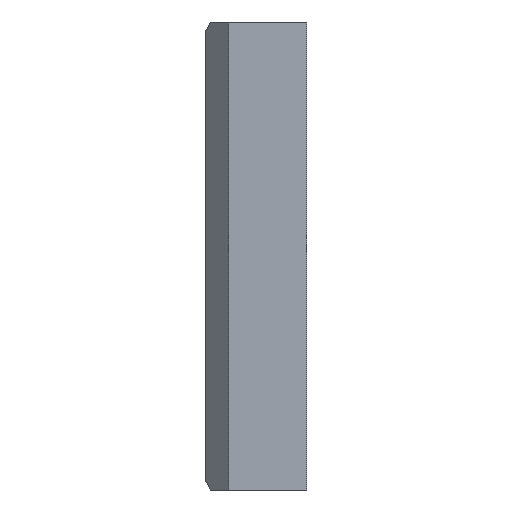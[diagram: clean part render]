
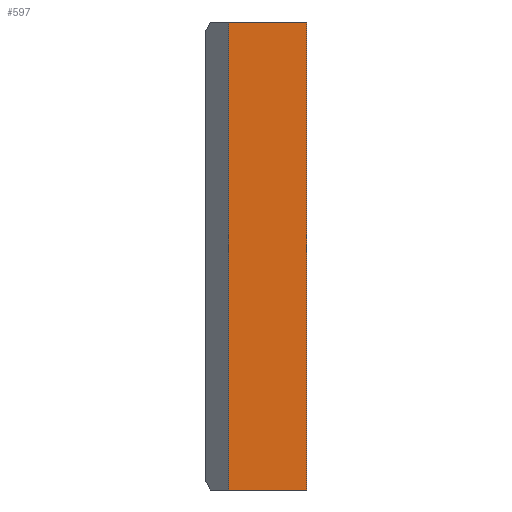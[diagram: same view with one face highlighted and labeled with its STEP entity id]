
A CAD part, left-side view. The second image highlights one B-rep face of the part: STEP entity #597.
In plain terms, the highlighted planar face has unit normal (-1, 0, 0).
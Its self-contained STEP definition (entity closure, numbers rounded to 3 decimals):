
#28 = DIRECTION ( 'NONE',  ( 0., 1., 0. ) ) ;
#305 = ORIENTED_EDGE ( 'NONE', *, *, #1192, .F. ) ;
#308 = ORIENTED_EDGE ( 'NONE', *, *, #1570, .T. ) ;
#385 = PLANE ( 'NONE',  #785 ) ;
#411 = VECTOR ( 'NONE', #1241, 1000. ) ;
#511 = VERTEX_POINT ( 'NONE', #952 ) ;
#564 = EDGE_CURVE ( 'NONE', #1713, #1282, #1599, .T. ) ;
#597 = ADVANCED_FACE ( 'NONE', ( #1150 ), #385, .T. ) ;
#630 = ORIENTED_EDGE ( 'NONE', *, *, #564, .T. ) ;
#785 = AXIS2_PLACEMENT_3D ( 'NONE', #1503, #1803, #1651 ) ;
#813 = CARTESIAN_POINT ( 'NONE',  ( -5., 0., 45. ) ) ;
#816 = CARTESIAN_POINT ( 'NONE',  ( -5., 0., 45. ) ) ;
#952 = CARTESIAN_POINT ( 'NONE',  ( -5., 7.518, 0. ) ) ;
#976 = EDGE_CURVE ( 'NONE', #1713, #1977, #1737, .T. ) ;
#1060 = VECTOR ( 'NONE', #1347, 1000. ) ;
#1095 = LINE ( 'NONE', #1213, #1588 ) ;
#1150 = FACE_OUTER_BOUND ( 'NONE', #1767, .T. ) ;
#1192 = EDGE_CURVE ( 'NONE', #1977, #511, #1502, .T. ) ;
#1213 = CARTESIAN_POINT ( 'NONE',  ( -5., 7.518, 45. ) ) ;
#1215 = ORIENTED_EDGE ( 'NONE', *, *, #976, .F. ) ;
#1241 = DIRECTION ( 'NONE',  ( 0., 0., -1. ) ) ;
#1282 = VERTEX_POINT ( 'NONE', #1548 ) ;
#1347 = DIRECTION ( 'NONE',  ( 0., 1., 0. ) ) ;
#1436 = VECTOR ( 'NONE', #28, 1000. ) ;
#1502 = LINE ( 'NONE', #1840, #1060 ) ;
#1503 = CARTESIAN_POINT ( 'NONE',  ( -5., 0., 45. ) ) ;
#1531 = DIRECTION ( 'NONE',  ( 0., 0., -1. ) ) ;
#1548 = CARTESIAN_POINT ( 'NONE',  ( -5., 7.518, 45. ) ) ;
#1570 = EDGE_CURVE ( 'NONE', #1282, #511, #1095, .T. ) ;
#1588 = VECTOR ( 'NONE', #1531, 1000. ) ;
#1599 = LINE ( 'NONE', #816, #1436 ) ;
#1651 = DIRECTION ( 'NONE',  ( 0., 0., 1. ) ) ;
#1713 = VERTEX_POINT ( 'NONE', #1749 ) ;
#1737 = LINE ( 'NONE', #813, #411 ) ;
#1749 = CARTESIAN_POINT ( 'NONE',  ( -5., 0., 45. ) ) ;
#1767 = EDGE_LOOP ( 'NONE', ( #305, #1215, #630, #308 ) ) ;
#1770 = CARTESIAN_POINT ( 'NONE',  ( -5., 0., 0. ) ) ;
#1803 = DIRECTION ( 'NONE',  ( -1., 0., 0. ) ) ;
#1840 = CARTESIAN_POINT ( 'NONE',  ( -5., 0., 0. ) ) ;
#1977 = VERTEX_POINT ( 'NONE', #1770 ) ;
